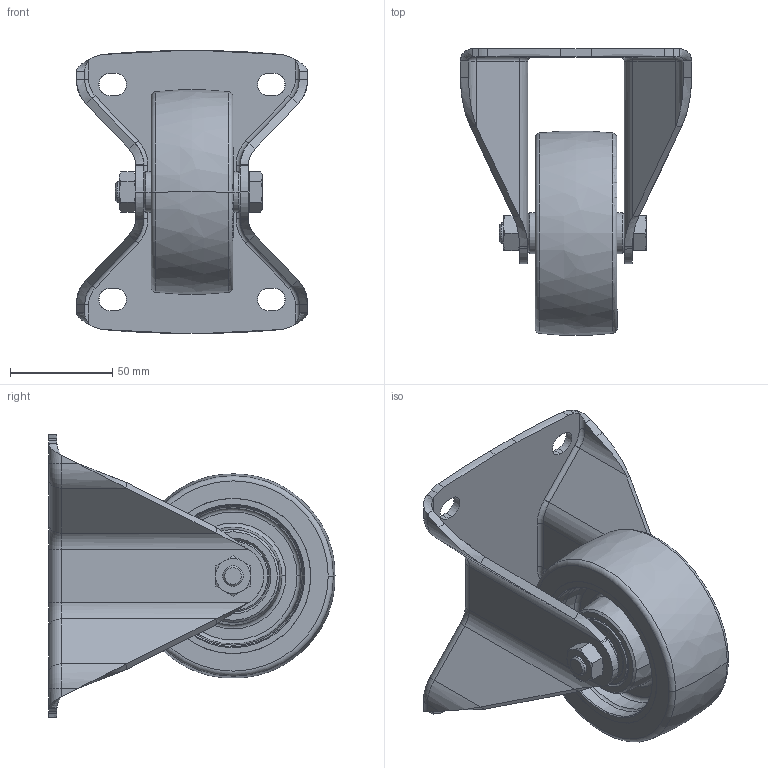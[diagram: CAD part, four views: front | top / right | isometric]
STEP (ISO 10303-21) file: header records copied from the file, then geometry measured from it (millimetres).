
FILE_DESCRIPTION (( 'STEP AP214' ), '1' );
FILE_NAME ('BH-GTH_100K-3_752607-214.step', '2021-11-24T14:45:52', ( '' ), ( '' ), 'SwSTEP 2.0', 'SolidWorks 2018', '' );
FILE_SCHEMA (( 'AUTOMOTIVE_DESIGN' ));
Length unit declared in the file: millimetre
Products named in the file (5): BH-GTH_100K-3_752607-214; GH-BH-100x45-03_15x40_G16_3D; GTH_3D_G16_GTH_100_15K_266312; GTH_100_15K_G16_3D; GH-BH_80-125_GH-BH-100x45-03_15x40
Assembly tree (4 placements, depth 3):
  BH-GTH_100K-3_752607-214
    GH-BH_80-125_GH-BH-100x45-03_15x40
      GH-BH-100x45-03_15x40_G16_3D
    GTH_3D_G16_GTH_100_15K_266312
      GTH_100_15K_G16_3D
Bounding box: 113 x 139.88 x 138 mm (x, y, z)
Volume: 344512.7 mm3; surface area: 112085.7 mm2
Topology: 2 solids, 5 shells, 1385 faces, 3657 edges, 2373 vertices
Faces by surface type: plane 584, bspline 547, cylinder 95, torus 90, cone 69
Entity records: 61802 total; most frequent: CARTESIAN_POINT 19452, ORIENTED_EDGE 7314, DIRECTION 4660, EDGE_CURVE 3657, VERTEX_POINT 2373, LINE 2048, VECTOR 2048, EDGE_LOOP 1494
